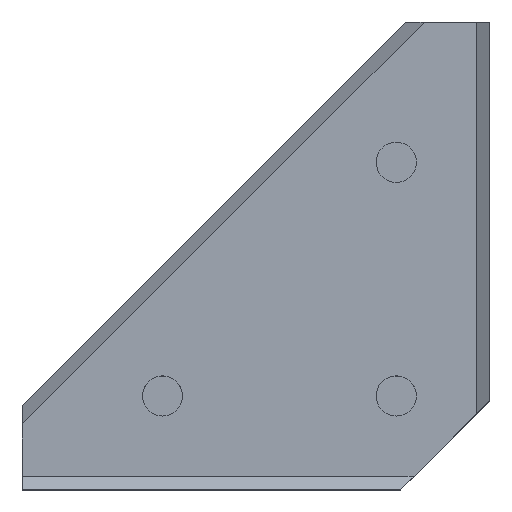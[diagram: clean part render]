
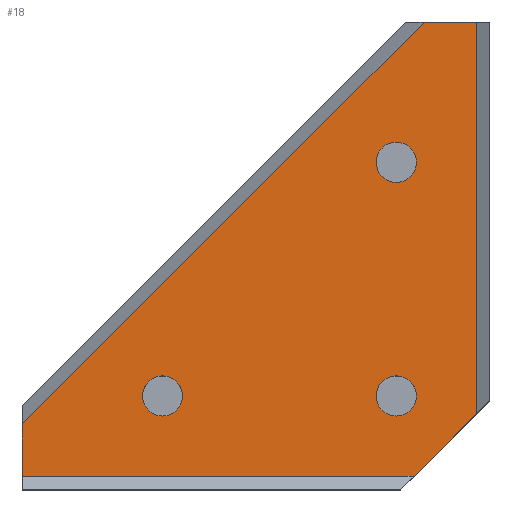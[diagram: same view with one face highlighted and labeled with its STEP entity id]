
A CAD part, top view. The second image highlights one B-rep face of the part: STEP entity #18.
In plain terms, the highlighted planar face has unit normal (0, 0, 1).
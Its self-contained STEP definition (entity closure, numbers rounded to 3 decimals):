
#2 = EDGE_LOOP ( 'NONE', ( #1293, #1208 ) ) ;
#9 = ORIENTED_EDGE ( 'NONE', *, *, #1165, .T. ) ;
#18 = ADVANCED_FACE ( 'NONE', ( #222, #223, #225, #226 ), #227, .T. ) ;
#37 = EDGE_CURVE ( 'NONE', #1330, #60, #305, .T. ) ;
#42 = EDGE_CURVE ( 'NONE', #136, #1375, #344, .T. ) ;
#49 = EDGE_CURVE ( 'NONE', #963, #1148, #372, .T. ) ;
#60 = VERTEX_POINT ( 'NONE', #449 ) ;
#75 = ORIENTED_EDGE ( 'NONE', *, *, #37, .F. ) ;
#89 = ORIENTED_EDGE ( 'NONE', *, *, #49, .T. ) ;
#103 = VERTEX_POINT ( 'NONE', #773 ) ;
#108 = VERTEX_POINT ( 'NONE', #807 ) ;
#109 = VERTEX_POINT ( 'NONE', #809 ) ;
#128 = EDGE_LOOP ( 'NONE', ( #75, #1355 ) ) ;
#133 = EDGE_CURVE ( 'NONE', #109, #963, #897, .T. ) ;
#136 = VERTEX_POINT ( 'NONE', #909 ) ;
#169 = CARTESIAN_POINT ( 'NONE',  ( 17.15, 10., 15.8 ) ) ;
#222 = FACE_BOUND ( 'NONE', #2, .T. ) ;
#223 = FACE_BOUND ( 'NONE', #1181, .T. ) ;
#225 = FACE_BOUND ( 'NONE', #128, .T. ) ;
#226 = FACE_OUTER_BOUND ( 'NONE', #1339, .T. ) ;
#227 = PLANE ( 'NONE',  #228 ) ;
#228 = AXIS2_PLACEMENT_3D ( 'NONE', #229, #230, #231 ) ;
#229 = CARTESIAN_POINT ( 'NONE',  ( 0., 0., 15.8 ) ) ;
#230 = DIRECTION ( 'NONE',  ( 0., 0., 1. ) ) ;
#231 = DIRECTION ( 'NONE',  ( 1., 0., 0. ) ) ;
#233 = CARTESIAN_POINT ( 'NONE',  ( 48.6, 50., 15.8 ) ) ;
#234 = CIRCLE ( 'NONE', #235, 2.15 ) ;
#235 = AXIS2_PLACEMENT_3D ( 'NONE', #236, #237, #238 ) ;
#236 = CARTESIAN_POINT ( 'NONE',  ( 15., 10., 15.8 ) ) ;
#237 = DIRECTION ( 'NONE',  ( 0., 0., 1. ) ) ;
#238 = DIRECTION ( 'NONE',  ( 1., 0., 0. ) ) ;
#245 = CARTESIAN_POINT ( 'NONE',  ( 42.15, 35., 15.8 ) ) ;
#262 = ORIENTED_EDGE ( 'NONE', *, *, #1373, .F. ) ;
#278 = LINE ( 'NONE', #279, #280 ) ;
#279 = CARTESIAN_POINT ( 'NONE',  ( 0., 9., 15.8 ) ) ;
#280 = VECTOR ( 'NONE', #282, 1000. ) ;
#282 = DIRECTION ( 'NONE',  ( 0., -1., 0. ) ) ;
#305 = CIRCLE ( 'NONE', #306, 2.15 ) ;
#306 = AXIS2_PLACEMENT_3D ( 'NONE', #307, #308, #309 ) ;
#307 = CARTESIAN_POINT ( 'NONE',  ( 40., 10., 15.8 ) ) ;
#308 = DIRECTION ( 'NONE',  ( 0., 0., 1. ) ) ;
#309 = DIRECTION ( 'NONE',  ( 1., 0., 0. ) ) ;
#310 = LINE ( 'NONE', #311, #312 ) ;
#311 = CARTESIAN_POINT ( 'NONE',  ( 50., 50., 15.8 ) ) ;
#312 = VECTOR ( 'NONE', #313, 1000. ) ;
#313 = DIRECTION ( 'NONE',  ( -1., 0., 0. ) ) ;
#344 = CIRCLE ( 'NONE', #345, 2.15 ) ;
#345 = AXIS2_PLACEMENT_3D ( 'NONE', #346, #347, #352 ) ;
#346 = CARTESIAN_POINT ( 'NONE',  ( 40., 35., 15.8 ) ) ;
#347 = DIRECTION ( 'NONE',  ( 0., 0., 1. ) ) ;
#352 = DIRECTION ( 'NONE',  ( 1., 0., 0. ) ) ;
#372 = LINE ( 'NONE', #373, #374 ) ;
#373 = CARTESIAN_POINT ( 'NONE',  ( 48.6, 6.849, 15.8 ) ) ;
#374 = VECTOR ( 'NONE', #375, 1000. ) ;
#375 = DIRECTION ( 'NONE',  ( 0., 1., 0. ) ) ;
#449 = CARTESIAN_POINT ( 'NONE',  ( 37.85, 10., 15.8 ) ) ;
#514 = CARTESIAN_POINT ( 'NONE',  ( 42.15, 10., 15.8 ) ) ;
#548 = ORIENTED_EDGE ( 'NONE', *, *, #133, .T. ) ;
#613 = CIRCLE ( 'NONE', #614, 2.15 ) ;
#614 = AXIS2_PLACEMENT_3D ( 'NONE', #615, #616, #617 ) ;
#615 = CARTESIAN_POINT ( 'NONE',  ( 15., 10., 15.8 ) ) ;
#616 = DIRECTION ( 'NONE',  ( 0., 0., 1. ) ) ;
#617 = DIRECTION ( 'NONE',  ( 1., 0., 0. ) ) ;
#708 = LINE ( 'NONE', #710, #711 ) ;
#710 = CARTESIAN_POINT ( 'NONE',  ( 0., 1.4, 15.8 ) ) ;
#711 = VECTOR ( 'NONE', #712, 1000. ) ;
#712 = DIRECTION ( 'NONE',  ( 1., 0., 0. ) ) ;
#725 = CIRCLE ( 'NONE', #728, 2.15 ) ;
#728 = AXIS2_PLACEMENT_3D ( 'NONE', #729, #730, #731 ) ;
#729 = CARTESIAN_POINT ( 'NONE',  ( 40., 10., 15.8 ) ) ;
#730 = DIRECTION ( 'NONE',  ( 0., 0., 1. ) ) ;
#731 = DIRECTION ( 'NONE',  ( 1., 0., 0. ) ) ;
#767 = CARTESIAN_POINT ( 'NONE',  ( 48.6, 8.1, 15.8 ) ) ;
#773 = CARTESIAN_POINT ( 'NONE',  ( 0., 7.02, 15.8 ) ) ;
#781 = EDGE_CURVE ( 'NONE', #1362, #108, #613, .T. ) ;
#807 = CARTESIAN_POINT ( 'NONE',  ( 12.85, 10., 15.8 ) ) ;
#809 = CARTESIAN_POINT ( 'NONE',  ( 41.9, 1.4, 15.8 ) ) ;
#843 = LINE ( 'NONE', #844, #845 ) ;
#844 = CARTESIAN_POINT ( 'NONE',  ( -3.51, 3.51, 15.8 ) ) ;
#845 = VECTOR ( 'NONE', #846, 1000. ) ;
#846 = DIRECTION ( 'NONE',  ( 0.707, 0.707, 0. ) ) ;
#854 = CARTESIAN_POINT ( 'NONE',  ( 0., 1.4, 15.8 ) ) ;
#879 = CIRCLE ( 'NONE', #880, 2.15 ) ;
#880 = AXIS2_PLACEMENT_3D ( 'NONE', #881, #882, #883 ) ;
#881 = CARTESIAN_POINT ( 'NONE',  ( 40., 35., 15.8 ) ) ;
#882 = DIRECTION ( 'NONE',  ( 0., 0., 1. ) ) ;
#883 = DIRECTION ( 'NONE',  ( 1., 0., 0. ) ) ;
#884 = CARTESIAN_POINT ( 'NONE',  ( 42.98, 50., 15.8 ) ) ;
#894 = EDGE_CURVE ( 'NONE', #1253, #109, #708, .T. ) ;
#897 = LINE ( 'NONE', #898, #899 ) ;
#898 = CARTESIAN_POINT ( 'NONE',  ( 40.5, 0., 15.8 ) ) ;
#899 = VECTOR ( 'NONE', #900, 1000. ) ;
#900 = DIRECTION ( 'NONE',  ( 0.707, 0.707, 0. ) ) ;
#909 = CARTESIAN_POINT ( 'NONE',  ( 37.85, 35., 15.8 ) ) ;
#963 = VERTEX_POINT ( 'NONE', #767 ) ;
#1120 = ORIENTED_EDGE ( 'NONE', *, *, #781, .F. ) ;
#1143 = ORIENTED_EDGE ( 'NONE', *, *, #894, .T. ) ;
#1148 = VERTEX_POINT ( 'NONE', #233 ) ;
#1159 = EDGE_CURVE ( 'NONE', #103, #1253, #278, .T. ) ;
#1165 = EDGE_CURVE ( 'NONE', #1148, #1261, #310, .T. ) ;
#1181 = EDGE_LOOP ( 'NONE', ( #1120, #262 ) ) ;
#1195 = ORIENTED_EDGE ( 'NONE', *, *, #1159, .T. ) ;
#1208 = ORIENTED_EDGE ( 'NONE', *, *, #42, .F. ) ;
#1247 = EDGE_CURVE ( 'NONE', #103, #1261, #843, .T. ) ;
#1253 = VERTEX_POINT ( 'NONE', #854 ) ;
#1260 = EDGE_CURVE ( 'NONE', #1375, #136, #879, .T. ) ;
#1261 = VERTEX_POINT ( 'NONE', #884 ) ;
#1286 = ORIENTED_EDGE ( 'NONE', *, *, #1247, .F. ) ;
#1293 = ORIENTED_EDGE ( 'NONE', *, *, #1260, .F. ) ;
#1330 = VERTEX_POINT ( 'NONE', #514 ) ;
#1339 = EDGE_LOOP ( 'NONE', ( #1286, #1195, #1143, #548, #89, #9 ) ) ;
#1347 = EDGE_CURVE ( 'NONE', #60, #1330, #725, .T. ) ;
#1355 = ORIENTED_EDGE ( 'NONE', *, *, #1347, .F. ) ;
#1362 = VERTEX_POINT ( 'NONE', #169 ) ;
#1373 = EDGE_CURVE ( 'NONE', #108, #1362, #234, .T. ) ;
#1375 = VERTEX_POINT ( 'NONE', #245 ) ;
